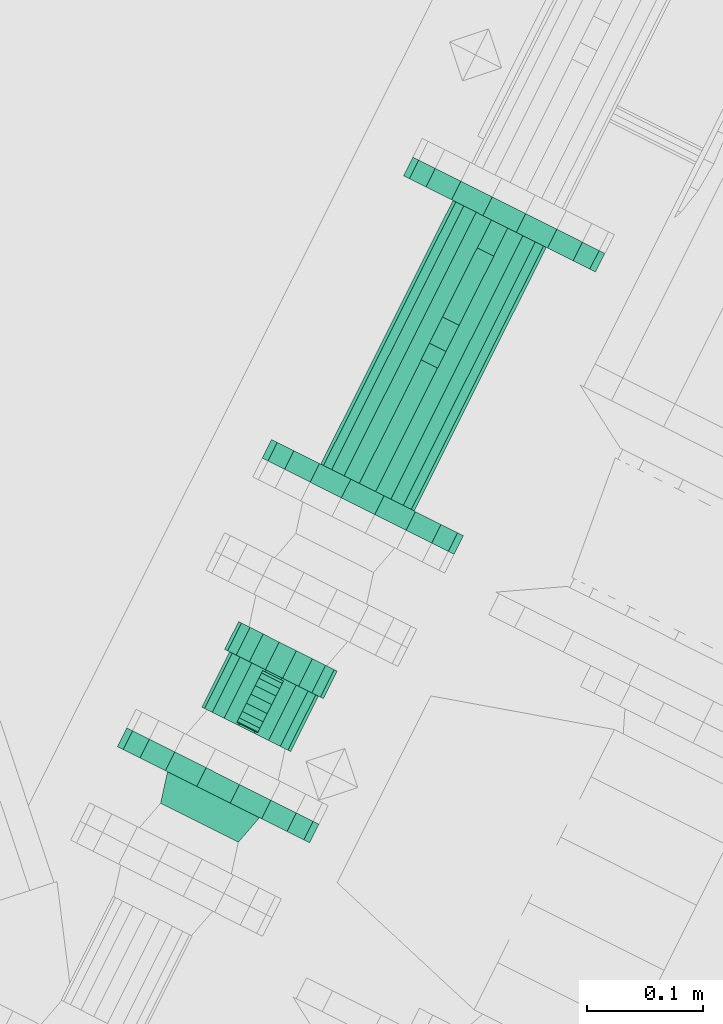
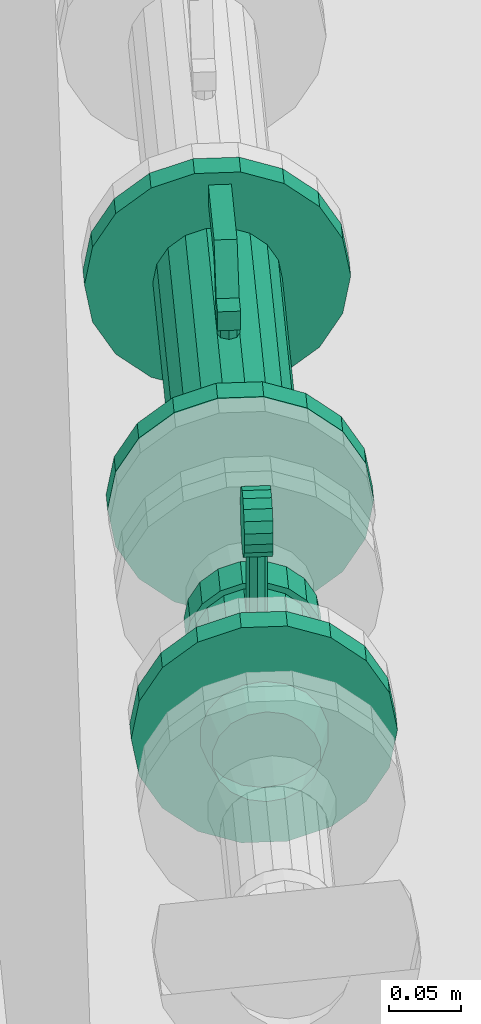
# One storey, part 75 of 206: 2 flow controllers, 1 distribution control element, 1 flow fitting.
"""IFC2X3 building model written with IfcOpenShell, lengths in metres."""

from ifc_helpers import new_model, si_unit, derived_unit, direction, frame, origin, place, context, subcontext, project, spatial, face_set, surface_model, source, transform, mapped, material, type_object, type_shapes, element, save


model = new_model("IFC2X3")

# Units and contexts
model_context = context("Model", 3, precision=5.2338327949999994e-05, world=origin(), true_north=direction((0.0, 1.0)))
body_context = subcontext(model_context, "Body", "Model", "MODEL_VIEW")
ifc_project = project(units=[si_unit("LENGTHUNIT", "METRE"), si_unit("AREAUNIT", "SQUARE_METRE"), si_unit("VOLUMEUNIT", "CUBIC_METRE"), si_unit("MASSUNIT", "GRAM", prefix="KILO"), si_unit("PLANEANGLEUNIT", "RADIAN"), derived_unit("THERMALTRANSMITTANCEUNIT", [(si_unit("MASSUNIT", "GRAM", prefix="KILO"), 1), (si_unit("THERMODYNAMICTEMPERATUREUNIT", "KELVIN"), -1), (si_unit("TIMEUNIT", "SECOND"), -3)])], contexts=[model_context])

# Site, building, storey
site_placement = place(None, frame((0.0, 0.0, 0.0), z_axis=(0.0, 0.0, 1.0), x_axis=(0.8939966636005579, -0.4480736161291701, 0.0)))
site = spatial("IfcSite", under=ifc_project, at=site_placement, Name="Default", CompositionType="ELEMENT")
building_placement = place(site_placement, origin())
building = spatial("IfcBuilding", under=site, at=building_placement, CompositionType="ELEMENT")
storey_placement = place(building_placement, origin())
storey = spatial("IfcBuildingStorey", under=building, at=storey_placement, Name="Erdgeschoss", CompositionType="ELEMENT", Elevation=0.0)

# Distribution control element
ifc_material = material(Name="IfcSurfaceStyle #352577")
distribution_element_type_1 = type_object("IfcDistributionElementType", Name="Messarmatur 602914:Messarmatur 602914", material=ifc_material)
shared_shape_1 = source(origin(), body_context, "Body", "SurfaceModel", [
    surface_model("IfcFaceBasedSurfaceModel", [(25.080640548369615, 6.087302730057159, 1.0054276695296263), (25.080640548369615, 6.080190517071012, 1.0104076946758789), (25.100640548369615, 6.0801905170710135, 1.0104076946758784), (25.100640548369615, 6.087302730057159, 1.0054276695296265), (25.080640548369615, 6.071803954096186, 1.0126548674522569), (25.100640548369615, 6.071803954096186, 1.0126548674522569), (25.080640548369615, 6.063154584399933, 1.011898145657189), (25.100640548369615, 6.063154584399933, 1.011898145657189), (25.080640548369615, 6.055285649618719, 1.0082288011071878), (25.100640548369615, 6.055285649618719, 1.0082288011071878), (25.080640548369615, 6.04914625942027, 1.002089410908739), (25.100640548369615, 6.04914625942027, 1.002089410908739), (25.080640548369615, 6.045476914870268, 0.9942204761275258), (25.100640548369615, 6.045476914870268, 0.9942204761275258), (25.080640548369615, 6.044720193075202, 0.9855711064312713), (25.100640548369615, 6.044720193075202, 0.9855711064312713), (25.080640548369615, 6.046967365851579, 0.9771845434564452), (25.100640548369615, 6.046967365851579, 0.9771845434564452), (25.080640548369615, 6.051947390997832, 0.9700723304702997), (25.100640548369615, 6.051947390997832, 0.9700723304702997), (25.080640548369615, 6.059059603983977, 0.9650923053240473), (25.100640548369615, 6.059059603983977, 0.9650923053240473), (25.080640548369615, 6.067446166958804, 0.9628451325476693), (25.100640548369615, 6.067446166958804, 0.9628451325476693), (25.080640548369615, 6.076095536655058, 0.9636018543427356), (25.100640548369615, 6.076095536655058, 0.9636018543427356), (25.080640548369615, 6.083964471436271, 0.9672711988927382), (25.100640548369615, 6.083964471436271, 0.9672711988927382), (25.080640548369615, 6.090103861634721, 0.9734105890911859), (25.100640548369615, 6.090103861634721, 0.9734105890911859), (25.080640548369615, 6.093773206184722, 0.9812795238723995), (25.100640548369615, 6.093773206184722, 0.9812795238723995), (25.080640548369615, 6.0945299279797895, 0.989928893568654), (25.100640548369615, 6.0945299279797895, 0.989928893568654), (25.080640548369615, 6.092282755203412, 0.9983154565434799), (25.100640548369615, 6.092282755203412, 0.9983154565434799), (25.08064054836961, 6.069625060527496, 0.9877499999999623), (25.100640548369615, 6.069625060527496, 0.9877499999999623), (25.083140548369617, 6.069625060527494, 0.9127499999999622), (25.085337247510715, 6.064321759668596, 0.9127499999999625), (25.085337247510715, 6.064321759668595, 0.962749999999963), (25.083140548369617, 6.0696250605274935, 0.9627499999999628), (25.090640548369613, 6.062125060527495, 0.9127499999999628), (25.090640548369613, 6.062125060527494, 0.9627499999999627), (25.09594384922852, 6.064321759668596, 0.9127499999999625), (25.09594384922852, 6.064321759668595, 0.962749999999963), (25.098140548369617, 6.0696250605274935, 0.9127499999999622), (25.098140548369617, 6.069625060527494, 0.9627499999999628), (25.09594384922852, 6.0749283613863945, 0.9127499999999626), (25.09594384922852, 6.0749283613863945, 0.962749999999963), (25.090640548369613, 6.0771250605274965, 0.9127499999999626), (25.090640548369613, 6.0771250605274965, 0.9627499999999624), (25.085337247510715, 6.0749283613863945, 0.9127499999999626), (25.085337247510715, 6.0749283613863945, 0.962749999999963)], [face_set([[[0, 1, 2, 3]], [[1, 4, 5, 2]], [[4, 6, 7, 5]], [[6, 8, 9, 7]], [[8, 10, 11, 9]], [[10, 12, 13, 11]], [[12, 14, 15, 13]], [[14, 16, 17, 15]], [[16, 18, 19, 17]], [[18, 20, 21, 19]], [[20, 22, 23, 21]], [[22, 24, 25, 23]], [[24, 26, 27, 25]], [[26, 28, 29, 27]], [[28, 30, 31, 29]], [[30, 32, 33, 31]], [[32, 34, 35, 33]], [[34, 0, 3, 35]], [[36, 1, 0]], [[36, 4, 1]], [[36, 6, 4]], [[36, 8, 6]], [[36, 10, 8]], [[36, 12, 10]], [[36, 14, 12]], [[36, 16, 14]], [[36, 18, 16]], [[36, 20, 18]], [[36, 22, 20]], [[36, 24, 22]], [[36, 26, 24]], [[36, 28, 26]], [[36, 30, 28]], [[36, 32, 30]], [[36, 34, 32]], [[36, 0, 34]], [[37, 35, 3]], [[37, 33, 35]], [[37, 31, 33]], [[37, 29, 31]], [[37, 27, 29]], [[37, 25, 27]], [[37, 23, 25]], [[37, 21, 23]], [[37, 19, 21]], [[37, 17, 19]], [[37, 15, 17]], [[37, 13, 15]], [[37, 11, 13]], [[37, 9, 11]], [[37, 7, 9]], [[37, 5, 7]], [[37, 2, 5]], [[37, 3, 2]], [[38, 39, 40, 41]], [[39, 42, 43, 40]], [[42, 44, 45, 43]], [[44, 46, 47, 45]], [[46, 48, 49, 47]], [[48, 50, 51, 49]], [[50, 52, 53, 51]], [[52, 38, 41, 53]]])]),
])
type_shapes(distribution_element_type_1, [shared_shape_1])
distribution_control_element_placement = place(storey_placement, origin())
element("IfcDistributionControlElement", 1, at=distribution_control_element_placement, inside=storey, type_object=distribution_element_type_1, material=ifc_material, Name="Messarmatur", ObjectType="Messarmatur", context=body_context, shape_type="MappedRepresentation", body=[
    mapped(shared_shape_1, transform((0.0, 0.0, 0.0), scale=1.0)),
])

# Flow controller
distribution_element_type_2 = type_object("IfcDistributionElementType", Name="Gasfilter 602937:Gasfilter 602937", material=ifc_material)
shared_shape_2 = source(origin(), body_context, "Body", "SurfaceModel", [
    surface_model("IfcFaceBasedSurfaceModel", [(25.04789054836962, 6.04295839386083, 0.869999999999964), (25.050468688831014, 6.04295839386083, 0.8846213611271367), (25.050468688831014, 6.096291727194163, 0.8846213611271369), (25.04789054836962, 6.096291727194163, 0.8699999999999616), (25.057892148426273, 6.04295839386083, 0.8974791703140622), (25.057892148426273, 6.096291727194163, 0.8974791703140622), (25.06926554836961, 6.04295839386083, 0.9070225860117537), (25.06926554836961, 6.096291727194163, 0.9070225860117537), (25.083217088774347, 6.04295839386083, 0.9121005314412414), (25.083217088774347, 6.096291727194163, 0.9121005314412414), (25.09806400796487, 6.04295839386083, 0.9121005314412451), (25.09806400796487, 6.096291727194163, 0.9121005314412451), (25.112015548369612, 6.04295839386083, 0.9070225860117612), (25.112015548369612, 6.096291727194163, 0.9070225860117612), (25.12338894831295, 6.04295839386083, 0.8974791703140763), (25.12338894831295, 6.096291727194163, 0.8974791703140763), (25.13081240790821, 6.04295839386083, 0.8846213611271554), (25.13081240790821, 6.096291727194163, 0.8846213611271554), (25.133390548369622, 6.04295839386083, 0.8699999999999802), (25.133390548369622, 6.096291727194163, 0.8699999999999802), (25.130812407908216, 6.04295839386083, 0.8553786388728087), (25.130812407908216, 6.096291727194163, 0.8553786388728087), (25.12338894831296, 6.04295839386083, 0.8425208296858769), (25.12338894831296, 6.096291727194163, 0.8425208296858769), (25.112015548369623, 6.04295839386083, 0.8329774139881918), (25.112015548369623, 6.096291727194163, 0.8329774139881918), (25.09806400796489, 6.04295839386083, 0.8278994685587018), (25.09806400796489, 6.096291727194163, 0.8278994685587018), (25.083217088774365, 6.04295839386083, 0.8278994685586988), (25.083217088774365, 6.096291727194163, 0.8278994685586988), (25.069265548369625, 6.04295839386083, 0.8329774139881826), (25.069265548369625, 6.096291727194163, 0.8329774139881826), (25.057892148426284, 6.04295839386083, 0.8425208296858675), (25.057892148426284, 6.096291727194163, 0.8425208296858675), (25.050468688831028, 6.04295839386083, 0.8553786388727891), (25.050468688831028, 6.096291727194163, 0.8553786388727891), (25.090640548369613, 6.04295839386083, 0.8699999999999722), (25.04314054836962, 6.096291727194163, 0.8699999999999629), (25.046005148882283, 6.096291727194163, 0.8862459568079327), (25.046005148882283, 6.12295839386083, 0.8862459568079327), (25.04314054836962, 6.12295839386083, 0.8699999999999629), (25.054253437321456, 6.096291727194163, 0.9005324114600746), (25.054253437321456, 6.12295839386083, 0.9005324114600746), (25.06689054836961, 6.096291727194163, 0.9111362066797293), (25.06689054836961, 6.12295839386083, 0.9111362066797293), (25.082392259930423, 6.096291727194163, 0.9167783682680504), (25.082392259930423, 6.12295839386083, 0.9167783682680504), (25.098888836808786, 6.096291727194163, 0.9167783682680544), (25.098888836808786, 6.12295839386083, 0.9167783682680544), (25.114390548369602, 6.096291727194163, 0.9111362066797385), (25.114390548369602, 6.12295839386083, 0.9111362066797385), (25.127027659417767, 6.096291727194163, 0.9005324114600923), (25.127027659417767, 6.12295839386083, 0.9005324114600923), (25.135275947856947, 6.096291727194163, 0.88624595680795), (25.135275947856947, 6.12295839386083, 0.88624595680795), (25.13814054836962, 6.096291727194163, 0.8699999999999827), (25.13814054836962, 6.12295839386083, 0.8699999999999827), (25.13527594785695, 6.096291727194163, 0.8537540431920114), (25.13527594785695, 6.12295839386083, 0.8537540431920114), (25.127027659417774, 6.096291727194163, 0.8394675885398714), (25.127027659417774, 6.12295839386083, 0.8394675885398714), (25.114390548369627, 6.096291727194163, 0.8288637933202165), (25.114390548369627, 6.12295839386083, 0.8288637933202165), (25.098888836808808, 6.096291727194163, 0.823221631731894), (25.098888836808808, 6.12295839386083, 0.823221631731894), (25.082392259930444, 6.096291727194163, 0.823221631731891), (25.082392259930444, 6.12295839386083, 0.823221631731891), (25.066890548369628, 6.096291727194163, 0.8288637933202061), (25.066890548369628, 6.12295839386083, 0.8288637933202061), (25.054253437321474, 6.096291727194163, 0.8394675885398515), (25.054253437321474, 6.12295839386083, 0.8394675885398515), (25.046005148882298, 6.096291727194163, 0.8537540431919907), (25.046005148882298, 6.12295839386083, 0.8537540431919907), (25.090640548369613, 6.096291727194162, 0.8699999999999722), (25.090640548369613, 6.12295839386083, 0.8699999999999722)], [face_set([[[0, 1, 2, 3]], [[1, 4, 5, 2]], [[4, 6, 7, 5]], [[6, 8, 9, 7]], [[8, 10, 11, 9]], [[10, 12, 13, 11]], [[12, 14, 15, 13]], [[14, 16, 17, 15]], [[16, 18, 19, 17]], [[18, 20, 21, 19]], [[20, 22, 23, 21]], [[22, 24, 25, 23]], [[24, 26, 27, 25]], [[26, 28, 29, 27]], [[28, 30, 31, 29]], [[30, 32, 33, 31]], [[32, 34, 35, 33]], [[34, 0, 3, 35]], [[36, 1, 0]], [[36, 4, 1]], [[36, 6, 4]], [[36, 8, 6]], [[36, 10, 8]], [[36, 12, 10]], [[36, 14, 12]], [[36, 16, 14]], [[36, 18, 16]], [[36, 20, 18]], [[36, 22, 20]], [[36, 24, 22]], [[36, 26, 24]], [[36, 28, 26]], [[36, 30, 28]], [[36, 32, 30]], [[36, 34, 32]], [[36, 0, 34]], [[37, 38, 39, 40]], [[38, 41, 42, 39]], [[41, 43, 44, 42]], [[43, 45, 46, 44]], [[45, 47, 48, 46]], [[47, 49, 50, 48]], [[49, 51, 52, 50]], [[51, 53, 54, 52]], [[53, 55, 56, 54]], [[55, 57, 58, 56]], [[57, 59, 60, 58]], [[59, 61, 62, 60]], [[61, 63, 64, 62]], [[63, 65, 66, 64]], [[65, 67, 68, 66]], [[67, 69, 70, 68]], [[69, 71, 72, 70]], [[71, 37, 40, 72]], [[73, 38, 37]], [[73, 41, 38]], [[73, 43, 41]], [[73, 45, 43]], [[73, 47, 45]], [[73, 49, 47]], [[73, 51, 49]], [[73, 53, 51]], [[73, 55, 53]], [[73, 57, 55]], [[73, 59, 57]], [[73, 61, 59]], [[73, 63, 61]], [[73, 65, 63]], [[73, 67, 65]], [[73, 69, 67]], [[73, 71, 69]], [[73, 37, 71]], [[74, 72, 40]], [[74, 70, 72]], [[74, 68, 70]], [[74, 66, 68]], [[74, 64, 66]], [[74, 62, 64]], [[74, 60, 62]], [[74, 58, 60]], [[74, 56, 58]], [[74, 54, 56]], [[74, 52, 54]], [[74, 50, 52]], [[74, 48, 50]], [[74, 46, 48]], [[74, 44, 46]], [[74, 42, 44]], [[74, 39, 42]], [[74, 40, 39]]])]),
])
type_shapes(distribution_element_type_2, [shared_shape_2])
flow_controller_1_placement = place(storey_placement, origin())
element("IfcFlowController", 2, at=flow_controller_1_placement, inside=storey, type_object=distribution_element_type_2, material=ifc_material, Name="Gasfilter", ObjectType="Gasfilter", context=body_context, shape_type="MappedRepresentation", body=[
    mapped(shared_shape_2, transform((0.0, 0.0, 0.0), scale=1.0)),
])

# Flow fitting
distribution_element_type_3 = type_object("IfcDistributionElementType", Name="Flansch 603006:Flansch 603006", material=ifc_material)
shared_shape_3 = source(origin(), body_context, "Body", "SurfaceModel", [
    surface_model("IfcFaceBasedSurfaceModel", [(24.998140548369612, 5.99795839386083, 0.8699999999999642), (25.00371898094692, 5.99795839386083, 0.8383631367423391), (25.00371898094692, 5.979958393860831, 0.8383631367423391), (24.998140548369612, 5.979958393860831, 0.8699999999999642), (25.01978143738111, 5.99795839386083, 0.810542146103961), (25.01978143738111, 5.979958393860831, 0.810542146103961), (25.044390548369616, 5.99795839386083, 0.7898926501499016), (25.044390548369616, 5.979958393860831, 0.7898926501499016), (25.07457809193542, 5.99795839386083, 0.7789052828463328), (25.07457809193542, 5.979958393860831, 0.7789052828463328), (25.10670300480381, 5.99795839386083, 0.7789052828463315), (25.10670300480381, 5.979958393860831, 0.7789052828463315), (25.136890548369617, 5.99795839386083, 0.7898926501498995), (25.136890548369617, 5.979958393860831, 0.7898926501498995), (25.161499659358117, 5.99795839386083, 0.8105421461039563), (25.161499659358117, 5.979958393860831, 0.8105421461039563), (25.17756211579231, 5.99795839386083, 0.8383631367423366), (25.17756211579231, 5.979958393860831, 0.8383631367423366), (25.183140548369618, 5.99795839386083, 0.8699999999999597), (25.183140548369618, 5.979958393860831, 0.8699999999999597), (25.17756211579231, 5.99795839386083, 0.9016368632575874), (25.17756211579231, 5.979958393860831, 0.9016368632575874), (25.161499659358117, 5.99795839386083, 0.9294578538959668), (25.161499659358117, 5.979958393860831, 0.9294578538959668), (25.13689054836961, 5.99795839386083, 0.9501073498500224), (25.13689054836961, 5.979958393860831, 0.9501073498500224), (25.10670300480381, 5.99795839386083, 0.9610947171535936), (25.10670300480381, 5.979958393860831, 0.9610947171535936), (25.07457809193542, 5.99795839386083, 0.9610947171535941), (25.07457809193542, 5.979958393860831, 0.9610947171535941), (25.044390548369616, 5.99795839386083, 0.9501073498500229), (25.044390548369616, 5.979958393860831, 0.9501073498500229), (25.01978143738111, 5.99795839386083, 0.9294578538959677), (25.01978143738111, 5.979958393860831, 0.9294578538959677), (25.003718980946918, 5.99795839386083, 0.9016368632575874), (25.003718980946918, 5.979958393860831, 0.9016368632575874), (25.090640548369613, 5.979958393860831, 0.8699999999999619), (25.090640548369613, 5.979958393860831, 0.8249999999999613), (25.106031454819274, 5.979958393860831, 0.8277138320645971), (25.10365441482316, 5.952958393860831, 0.8342446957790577), (25.090640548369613, 5.952958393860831, 0.8319499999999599), (25.119565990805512, 5.979958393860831, 0.8355280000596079), (25.11509861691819, 5.952958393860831, 0.8408520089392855), (25.129611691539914, 5.979958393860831, 0.8474999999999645), (25.123592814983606, 5.952958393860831, 0.8509749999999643), (25.13495689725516, 5.979958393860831, 0.8621858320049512), (25.128112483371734, 5.952958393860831, 0.8633926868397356), (25.13495689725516, 5.979958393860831, 0.8778141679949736), (25.12811248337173, 5.952958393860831, 0.8766073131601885), (25.129611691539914, 5.979958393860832, 0.8924999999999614), (25.123592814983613, 5.952958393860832, 0.889024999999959), (25.119565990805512, 5.979958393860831, 0.9044719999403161), (25.115098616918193, 5.952958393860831, 0.8991479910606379), (25.10603145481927, 5.979958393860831, 0.9122861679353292), (25.10365441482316, 5.952958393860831, 0.9057553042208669), (25.090640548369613, 5.979958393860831, 0.9149999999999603), (25.090640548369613, 5.952958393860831, 0.9080499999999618), (25.075249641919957, 5.979958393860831, 0.9122861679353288), (25.07762668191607, 5.952958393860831, 0.9057553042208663), (25.061715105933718, 5.97995839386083, 0.9044719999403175), (25.06618247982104, 5.95295839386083, 0.8991479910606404), (25.051669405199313, 5.979958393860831, 0.8924999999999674), (25.05768828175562, 5.952958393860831, 0.8890249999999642), (25.046324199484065, 5.979958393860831, 0.8778141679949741), (25.053168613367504, 5.952958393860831, 0.8766073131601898), (25.046324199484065, 5.979958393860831, 0.8621858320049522), (25.0531686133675, 5.952958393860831, 0.8633926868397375), (25.051669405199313, 5.979958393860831, 0.8474999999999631), (25.05768828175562, 5.952958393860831, 0.850974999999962), (25.061715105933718, 5.979958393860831, 0.8355280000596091), (25.06618247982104, 5.952958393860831, 0.8408520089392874), (25.075249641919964, 5.979958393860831, 0.8277138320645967), (25.077626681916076, 5.952958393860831, 0.8342446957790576)], [face_set([[[0, 1, 2, 3]], [[1, 4, 5, 2]], [[4, 6, 7, 5]], [[6, 8, 9, 7]], [[8, 10, 11, 9]], [[10, 12, 13, 11]], [[12, 14, 15, 13]], [[14, 16, 17, 15]], [[16, 18, 19, 17]], [[18, 20, 21, 19]], [[20, 22, 23, 21]], [[22, 24, 25, 23]], [[24, 26, 27, 25]], [[26, 28, 29, 27]], [[28, 30, 31, 29]], [[30, 32, 33, 31]], [[32, 34, 35, 33]], [[34, 0, 3, 35]], [[36, 35, 3]], [[36, 33, 35]], [[36, 31, 33]], [[36, 29, 31]], [[36, 27, 29]], [[36, 25, 27]], [[36, 23, 25]], [[36, 21, 23]], [[36, 19, 21]], [[36, 17, 19]], [[36, 15, 17]], [[36, 13, 15]], [[36, 11, 13]], [[36, 9, 11]], [[36, 7, 9]], [[36, 5, 7]], [[36, 2, 5]], [[36, 3, 2]], [[37, 38, 39, 40]], [[38, 41, 42, 39]], [[41, 43, 44, 42]], [[43, 45, 46, 44]], [[45, 47, 48, 46]], [[47, 49, 50, 48]], [[49, 51, 52, 50]], [[51, 53, 54, 52]], [[53, 55, 56, 54]], [[55, 57, 58, 56]], [[57, 59, 60, 58]], [[59, 61, 62, 60]], [[61, 63, 64, 62]], [[63, 65, 66, 64]], [[65, 67, 68, 66]], [[67, 69, 70, 68]], [[69, 71, 72, 70]], [[71, 37, 40, 72]]])]),
])
type_shapes(distribution_element_type_3, [shared_shape_3])
flow_fitting_placement = place(storey_placement, origin())
element("IfcFlowFitting", 3, at=flow_fitting_placement, inside=storey, type_object=distribution_element_type_3, material=ifc_material, Name="Flansch", ObjectType="Flansch", context=body_context, shape_type="MappedRepresentation", body=[
    mapped(shared_shape_3, transform((0.0, 0.0, 0.0), scale=1.0)),
])

# Flow controller
distribution_element_type_4 = type_object("IfcDistributionElementType", Name="Absperrklappe 603100:Absperrklappe 603100", material=ifc_material)
shared_shape_4 = source(origin(), body_context, "Body", "SurfaceModel", [
    surface_model("IfcFaceBasedSurfaceModel", [(25.08264054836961, 6.402958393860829, 0.869999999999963), (25.084983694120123, 6.397301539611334, 0.869999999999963), (25.084983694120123, 6.397301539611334, 0.9219999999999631), (25.08264054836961, 6.402958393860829, 0.9219999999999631), (25.090640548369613, 6.39495839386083, 0.869999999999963), (25.090640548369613, 6.39495839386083, 0.9219999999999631), (25.096297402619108, 6.397301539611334, 0.869999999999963), (25.096297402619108, 6.397301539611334, 0.9219999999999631), (25.098640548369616, 6.402958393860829, 0.869999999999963), (25.098640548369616, 6.402958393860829, 0.9219999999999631), (25.096297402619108, 6.408615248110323, 0.869999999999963), (25.096297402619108, 6.408615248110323, 0.9219999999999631), (25.090640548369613, 6.410958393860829, 0.869999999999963), (25.090640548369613, 6.410958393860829, 0.9219999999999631), (25.084983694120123, 6.4086152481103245, 0.869999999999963), (25.084983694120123, 6.4086152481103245, 0.9219999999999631), (25.08264054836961, 6.410958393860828, 0.9219999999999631), (25.08264054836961, 6.39495839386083, 0.9219999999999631), (25.098640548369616, 6.39495839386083, 0.9219999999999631), (25.098640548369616, 6.410958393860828, 0.9219999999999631), (25.08264054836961, 6.39495839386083, 0.9379999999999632), (25.098640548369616, 6.39495839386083, 0.9379999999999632), (25.08264054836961, 6.410958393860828, 0.9379999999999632), (25.098640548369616, 6.410958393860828, 0.9379999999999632), (25.08264054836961, 6.436291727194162, 0.9699999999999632), (25.098640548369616, 6.436291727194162, 0.9699999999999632), (25.08264054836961, 6.502958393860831, 0.9699999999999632), (25.098640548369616, 6.502958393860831, 0.9699999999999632), (25.08264054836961, 6.502958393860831, 0.9539999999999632), (25.098640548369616, 6.502958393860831, 0.9539999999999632), (25.08264054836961, 6.436291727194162, 0.9539999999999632), (25.098640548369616, 6.436291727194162, 0.9539999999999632), (24.998140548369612, 6.25795839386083, 0.869999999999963), (25.003718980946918, 6.25795839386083, 0.9016368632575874), (25.003718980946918, 6.27595839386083, 0.9016368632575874), (24.998140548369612, 6.27595839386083, 0.869999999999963), (25.01978143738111, 6.25795839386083, 0.9294578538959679), (25.01978143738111, 6.27595839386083, 0.9294578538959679), (25.044390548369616, 6.25795839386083, 0.9501073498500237), (25.044390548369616, 6.27595839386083, 0.9501073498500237), (25.074578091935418, 6.25795839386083, 0.9610947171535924), (25.074578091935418, 6.27595839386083, 0.9610947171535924), (25.10670300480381, 6.25795839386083, 0.9610947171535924), (25.10670300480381, 6.27595839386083, 0.9610947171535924), (25.13689054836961, 6.25795839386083, 0.9501073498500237), (25.13689054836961, 6.27595839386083, 0.9501073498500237), (25.161499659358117, 6.25795839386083, 0.929457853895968), (25.161499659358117, 6.27595839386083, 0.929457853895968), (25.17756211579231, 6.25795839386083, 0.9016368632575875), (25.17756211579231, 6.27595839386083, 0.9016368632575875), (25.183140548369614, 6.25795839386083, 0.869999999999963), (25.183140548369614, 6.27595839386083, 0.869999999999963), (25.17756211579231, 6.25795839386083, 0.8383631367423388), (25.17756211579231, 6.27595839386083, 0.8383631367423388), (25.161499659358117, 6.25795839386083, 0.8105421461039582), (25.161499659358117, 6.27595839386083, 0.8105421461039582), (25.13689054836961, 6.25795839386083, 0.7898926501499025), (25.13689054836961, 6.27595839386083, 0.7898926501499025), (25.10670300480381, 6.25795839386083, 0.7789052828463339), (25.10670300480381, 6.27595839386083, 0.7789052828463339), (25.074578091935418, 6.25795839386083, 0.7789052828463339), (25.074578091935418, 6.27595839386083, 0.7789052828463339), (25.044390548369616, 6.25795839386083, 0.7898926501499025), (25.044390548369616, 6.27595839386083, 0.7898926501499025), (25.01978143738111, 6.25795839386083, 0.8105421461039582), (25.01978143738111, 6.27595839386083, 0.8105421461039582), (25.003718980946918, 6.25795839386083, 0.8383631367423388), (25.003718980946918, 6.27595839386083, 0.8383631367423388), (25.090640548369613, 6.25795839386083, 0.869999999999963), (25.090640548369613, 6.27595839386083, 0.869999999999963), (25.045640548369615, 6.27595839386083, 0.8699999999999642), (25.048354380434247, 6.27595839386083, 0.8853909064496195), (25.048354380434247, 6.529958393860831, 0.8853909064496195), (25.045640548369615, 6.529958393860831, 0.8699999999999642), (25.05616854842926, 6.27595839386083, 0.8989254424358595), (25.05616854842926, 6.529958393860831, 0.8989254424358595), (25.068140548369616, 6.27595839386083, 0.9089711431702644), (25.068140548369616, 6.529958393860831, 0.9089711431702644), (25.0828263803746, 6.27595839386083, 0.9143163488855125), (25.0828263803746, 6.529958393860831, 0.9143163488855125), (25.09845471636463, 6.27595839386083, 0.9143163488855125), (25.09845471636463, 6.529958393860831, 0.9143163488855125), (25.113140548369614, 6.27595839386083, 0.908971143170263), (25.113140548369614, 6.529958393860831, 0.908971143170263), (25.125112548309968, 6.27595839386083, 0.8989254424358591), (25.125112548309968, 6.529958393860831, 0.8989254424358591), (25.132926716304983, 6.27595839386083, 0.8853909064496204), (25.132926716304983, 6.529958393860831, 0.8853909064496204), (25.13564054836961, 6.27595839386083, 0.8699999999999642), (25.13564054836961, 6.529958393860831, 0.8699999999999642), (25.132926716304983, 6.27595839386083, 0.8546090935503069), (25.132926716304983, 6.529958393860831, 0.8546090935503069), (25.125112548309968, 6.27595839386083, 0.8410745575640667), (25.125112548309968, 6.529958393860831, 0.8410745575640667), (25.113140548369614, 6.27595839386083, 0.8310288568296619), (25.113140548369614, 6.529958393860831, 0.8310288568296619), (25.09845471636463, 6.27595839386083, 0.8256836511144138), (25.09845471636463, 6.529958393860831, 0.8256836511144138), (25.0828263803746, 6.27595839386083, 0.8256836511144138), (25.0828263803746, 6.529958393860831, 0.8256836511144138), (25.068140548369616, 6.27595839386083, 0.8310288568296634), (25.068140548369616, 6.529958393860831, 0.8310288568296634), (25.05616854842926, 6.27595839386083, 0.8410745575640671), (25.05616854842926, 6.529958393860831, 0.8410745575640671), (25.048354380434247, 6.27595839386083, 0.8546090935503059), (25.048354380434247, 6.529958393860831, 0.8546090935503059), (24.998140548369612, 6.529958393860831, 0.869999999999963), (25.003718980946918, 6.529958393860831, 0.9016368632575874), (25.003718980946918, 6.54795839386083, 0.9016368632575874), (24.998140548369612, 6.54795839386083, 0.869999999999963), (25.01978143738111, 6.529958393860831, 0.9294578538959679), (25.01978143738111, 6.54795839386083, 0.9294578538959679), (25.044390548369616, 6.529958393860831, 0.9501073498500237), (25.044390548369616, 6.54795839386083, 0.9501073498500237), (25.074578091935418, 6.529958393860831, 0.9610947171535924), (25.074578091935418, 6.54795839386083, 0.9610947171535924), (25.10670300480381, 6.529958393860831, 0.9610947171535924), (25.10670300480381, 6.54795839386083, 0.9610947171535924), (25.13689054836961, 6.529958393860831, 0.9501073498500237), (25.13689054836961, 6.54795839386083, 0.9501073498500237), (25.161499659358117, 6.529958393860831, 0.929457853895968), (25.161499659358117, 6.54795839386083, 0.929457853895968), (25.17756211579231, 6.529958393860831, 0.9016368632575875), (25.17756211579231, 6.54795839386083, 0.9016368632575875), (25.183140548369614, 6.529958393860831, 0.869999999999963), (25.183140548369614, 6.54795839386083, 0.869999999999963), (25.17756211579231, 6.529958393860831, 0.8383631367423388), (25.17756211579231, 6.54795839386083, 0.8383631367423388), (25.161499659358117, 6.529958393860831, 0.8105421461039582), (25.161499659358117, 6.54795839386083, 0.8105421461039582), (25.13689054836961, 6.529958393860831, 0.7898926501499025), (25.13689054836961, 6.54795839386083, 0.7898926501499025), (25.10670300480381, 6.529958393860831, 0.7789052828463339), (25.10670300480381, 6.54795839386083, 0.7789052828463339), (25.074578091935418, 6.529958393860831, 0.7789052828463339), (25.074578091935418, 6.54795839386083, 0.7789052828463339), (25.044390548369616, 6.529958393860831, 0.7898926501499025), (25.044390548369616, 6.54795839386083, 0.7898926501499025), (25.01978143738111, 6.529958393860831, 0.8105421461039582), (25.01978143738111, 6.54795839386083, 0.8105421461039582), (25.003718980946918, 6.529958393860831, 0.8383631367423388), (25.003718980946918, 6.54795839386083, 0.8383631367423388), (25.090640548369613, 6.52995839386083, 0.869999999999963), (25.090640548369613, 6.54795839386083, 0.869999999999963)], [face_set([[[0, 1, 2, 3]], [[1, 4, 5, 2]], [[4, 6, 7, 5]], [[6, 8, 9, 7]], [[8, 10, 11, 9]], [[10, 12, 13, 11]], [[12, 14, 15, 13]], [[14, 0, 3, 15]], [[16, 17, 18, 19]], [[17, 20, 21, 18]], [[20, 22, 23, 21]], [[22, 24, 25, 23]], [[24, 26, 27, 25]], [[26, 28, 29, 27]], [[28, 30, 31, 29]], [[30, 16, 19, 31]], [[19, 23, 18]], [[23, 19, 25]], [[31, 25, 19]], [[25, 31, 27]], [[29, 27, 31]], [[21, 18, 23]], [[17, 22, 16]], [[24, 16, 22]], [[16, 24, 30]], [[26, 30, 24]], [[30, 26, 28]], [[22, 17, 20]], [[32, 33, 34, 35]], [[33, 36, 37, 34]], [[36, 38, 39, 37]], [[38, 40, 41, 39]], [[40, 42, 43, 41]], [[42, 44, 45, 43]], [[44, 46, 47, 45]], [[46, 48, 49, 47]], [[48, 50, 51, 49]], [[50, 52, 53, 51]], [[52, 54, 55, 53]], [[54, 56, 57, 55]], [[56, 58, 59, 57]], [[58, 60, 61, 59]], [[60, 62, 63, 61]], [[62, 64, 65, 63]], [[64, 66, 67, 65]], [[66, 32, 35, 67]], [[68, 33, 32]], [[68, 36, 33]], [[68, 38, 36]], [[68, 40, 38]], [[68, 42, 40]], [[68, 44, 42]], [[68, 46, 44]], [[68, 48, 46]], [[68, 50, 48]], [[68, 52, 50]], [[68, 54, 52]], [[68, 56, 54]], [[68, 58, 56]], [[68, 60, 58]], [[68, 62, 60]], [[68, 64, 62]], [[68, 66, 64]], [[68, 32, 66]], [[69, 67, 35]], [[69, 65, 67]], [[69, 63, 65]], [[69, 61, 63]], [[69, 59, 61]], [[69, 57, 59]], [[69, 55, 57]], [[69, 53, 55]], [[69, 51, 53]], [[69, 49, 51]], [[69, 47, 49]], [[69, 45, 47]], [[69, 43, 45]], [[69, 41, 43]], [[69, 39, 41]], [[69, 37, 39]], [[69, 34, 37]], [[69, 35, 34]], [[70, 71, 72, 73]], [[71, 74, 75, 72]], [[74, 76, 77, 75]], [[76, 78, 79, 77]], [[78, 80, 81, 79]], [[80, 82, 83, 81]], [[82, 84, 85, 83]], [[84, 86, 87, 85]], [[86, 88, 89, 87]], [[88, 90, 91, 89]], [[90, 92, 93, 91]], [[92, 94, 95, 93]], [[94, 96, 97, 95]], [[96, 98, 99, 97]], [[98, 100, 101, 99]], [[100, 102, 103, 101]], [[102, 104, 105, 103]], [[104, 70, 73, 105]], [[106, 107, 108, 109]], [[107, 110, 111, 108]], [[110, 112, 113, 111]], [[112, 114, 115, 113]], [[114, 116, 117, 115]], [[116, 118, 119, 117]], [[118, 120, 121, 119]], [[120, 122, 123, 121]], [[122, 124, 125, 123]], [[124, 126, 127, 125]], [[126, 128, 129, 127]], [[128, 130, 131, 129]], [[130, 132, 133, 131]], [[132, 134, 135, 133]], [[134, 136, 137, 135]], [[136, 138, 139, 137]], [[138, 140, 141, 139]], [[140, 106, 109, 141]], [[142, 107, 106]], [[142, 110, 107]], [[142, 112, 110]], [[142, 114, 112]], [[142, 116, 114]], [[142, 118, 116]], [[142, 120, 118]], [[142, 122, 120]], [[142, 124, 122]], [[142, 126, 124]], [[142, 128, 126]], [[142, 130, 128]], [[142, 132, 130]], [[142, 134, 132]], [[142, 136, 134]], [[142, 138, 136]], [[142, 140, 138]], [[142, 106, 140]], [[143, 141, 109]], [[143, 139, 141]], [[143, 137, 139]], [[143, 135, 137]], [[143, 133, 135]], [[143, 131, 133]], [[143, 129, 131]], [[143, 127, 129]], [[143, 125, 127]], [[143, 123, 125]], [[143, 121, 123]], [[143, 119, 121]], [[143, 117, 119]], [[143, 115, 117]], [[143, 113, 115]], [[143, 111, 113]], [[143, 108, 111]], [[143, 109, 108]]])]),
])
type_shapes(distribution_element_type_4, [shared_shape_4])
flow_controller_2_placement = place(storey_placement, origin())
element("IfcFlowController", 4, at=flow_controller_2_placement, inside=storey, type_object=distribution_element_type_4, material=ifc_material, Name="Absperrklappe", ObjectType="Absperrklappe", context=body_context, shape_type="MappedRepresentation", body=[
    mapped(shared_shape_4, transform((0.0, 0.0, 0.0), scale=1.0)),
])

save(model, "model.ifc")
